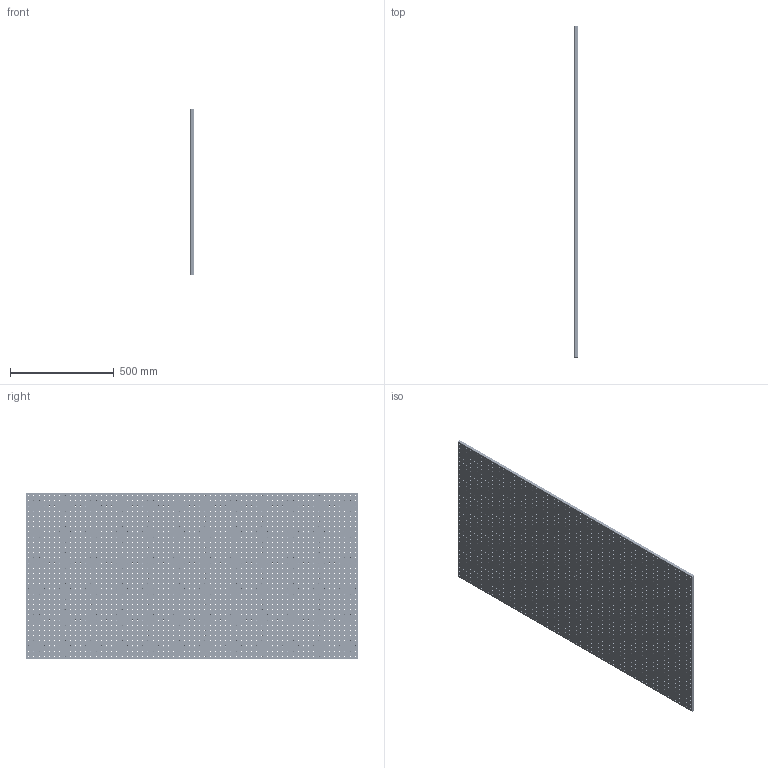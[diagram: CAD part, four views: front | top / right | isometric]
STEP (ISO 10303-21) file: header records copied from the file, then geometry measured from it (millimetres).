
FILE_DESCRIPTION(/* description */ (''),/* implementation_level */ '2;1');
FILE_NAME(/* name */ 'U:\KONSTRUKTORIAI\DOKUMENTACIJA\1\1B-A\Inventor\1B-A-80-160-015\Inventor\1B-A-80-160-015.stp',/* time_stamp */ '2018-07-18T14:54:31+03:00',/* author */ ('dsgn33'),/* organization */ (''),/* preprocessor_version */ 'ST-DEVELOPER v15.2',/* originating_system */ 'Autodesk Inventor 2014',/* authorisation */ '');
FILE_SCHEMA (('AUTOMOTIVE_DESIGN { 1 0 10303 214 3 1 1 }'));
Products named in the file (1): 1B-A-80-160-015.01
Bounding box: 15 x 1600 x 800 mm (x, y, z)
Volume: 18604986.4 mm3; surface area: 3013434 mm2
Topology: 1 solids, 1 shells, 6165 faces, 16422 edges, 10264 vertices
Faces by surface type: cone 4088, cylinder 2054, plane 23
Full cylindrical faces by diameter (mm): 4.917 x2044, 6.5 x5, 11 x5
Entity records: 152127 total; most frequent: DIRECTION 28764, CARTESIAN_POINT 22622, ORIENTED_EDGE 16472, EDGE_LOOP 16410, AXIS2_PLACEMENT_3D 14362, FACE_BOUND 10247, EDGE_CURVE 8236, VERTEX_POINT 8220
